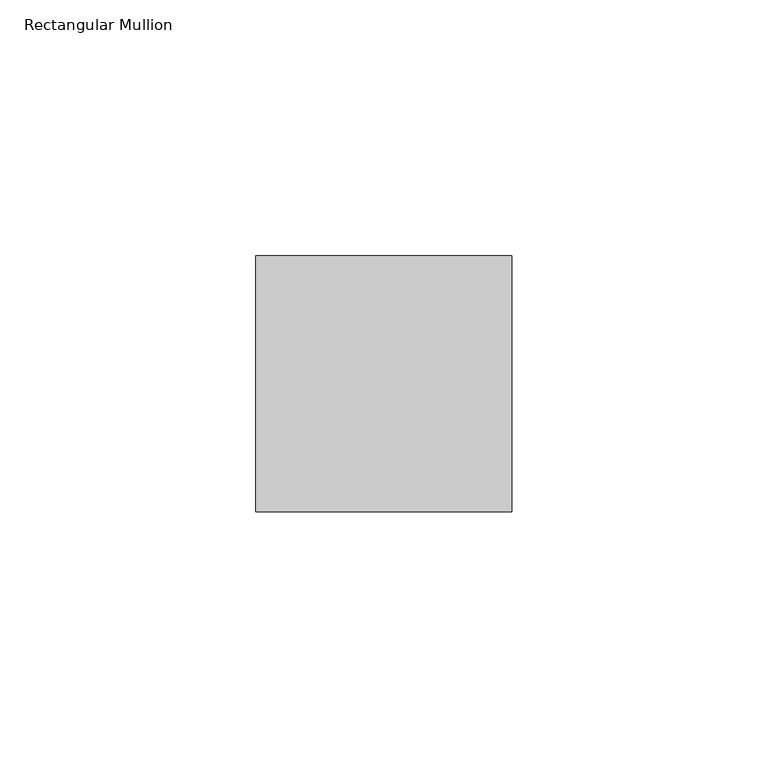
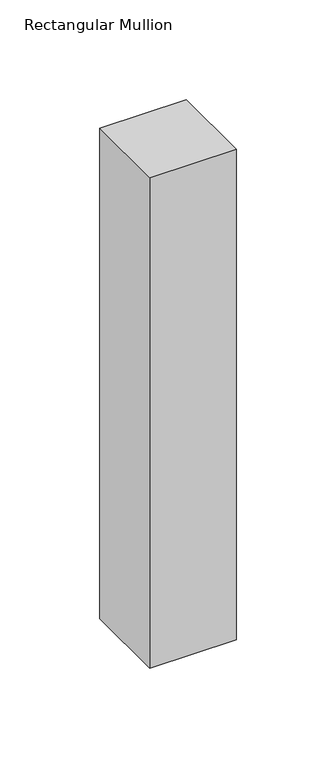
"""IFC4 building model written with IfcOpenShell, lengths in millimetres: member geometry, Rectangular Mullion : RSen_21_CWM_support profile 50x50_gen_duco projects."""

from ifc_helpers import new_model, si_unit, frame, origin, place, context, project, spatial, polyline, outline, extrude, source, transform, mapped, element, save


def rectangular_mullion_906318ec(model_context):
    return source(origin(), model_context, "Body", "SweptSolid", [
        extrude(outline(polyline([(25.0, 1.0), (25.0, -49.0), (-25.0, -49.0), (-25.0, 1.0), (25.0, 1.0)])), frame((0.0, 0.0, -300.0), z_axis=(0.0, 0.0, 1.0), x_axis=(1.0, 0.0, 0.0)), (0.0, 0.0, 1.0), 300.0),
    ])


if __name__ == "__main__":
    model = new_model("IFC4")
    model_context = context("Model", 3, world=origin())
    ifc_project = project(units=[si_unit("LENGTHUNIT", "METRE", prefix="MILLI")], contexts=[model_context])
    site = spatial("IfcSite", under=ifc_project)
    building = spatial("IfcBuilding", under=site)
    placement = place(None, origin())
    rectangular_mullion_shape = rectangular_mullion_906318ec(model_context)
    element("IfcMember", 1, ObjectType="Rectangular Mullion : RSen_21_CWM_support profile 50x50_gen_duco projects", at=placement, inside=building, context=model_context, shape_type="MappedRepresentation", body=[
        mapped(rectangular_mullion_shape, transform((0.0, 0.0, 0.0), x_axis=(1.0, 0.0, 0.0), y_axis=(0.0, 1.0, 0.0), z_axis=(0.0, 0.0, 1.0))),
    ])
    save(model, "model.ifc")
